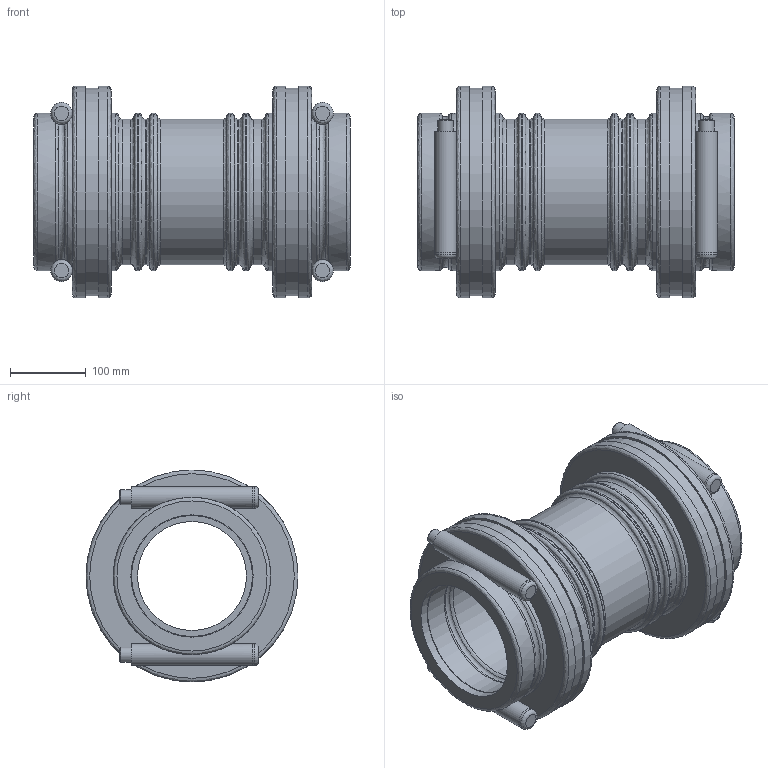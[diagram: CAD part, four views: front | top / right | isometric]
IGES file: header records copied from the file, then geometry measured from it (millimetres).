
Global section: file name: 070106160_0701061600A.ipt; native system: Autodesk Inventor 2015; preprocessor: unknown; author: KIM; date: 20170618.093345; units: millimetre
Bounding box: 418 x 280 x 280 mm (x, y, z)
Volume: 8058592.2 mm3; surface area: 719633.7 mm2
Topology: 1 solids, 1 shells, 124 faces, 302 edges, 200 vertices
Faces by surface type: revolution 55, cylinder 35, plane 30, cone 4
Full cylindrical faces by diameter (mm): 20.16 x4, 28.6 x4, 28.8 x4, 192 x5, 208 x8, 274.4 x2, 280 x4
